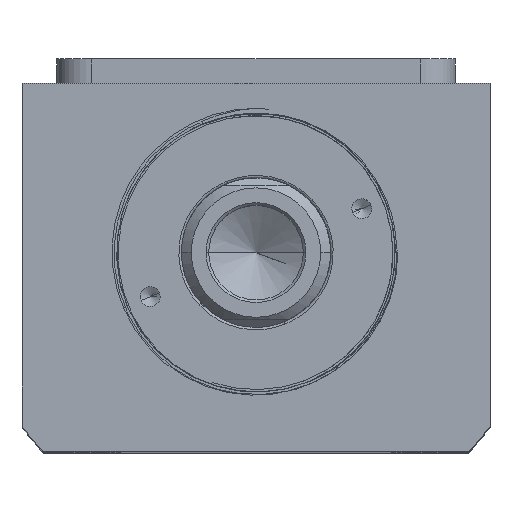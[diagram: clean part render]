
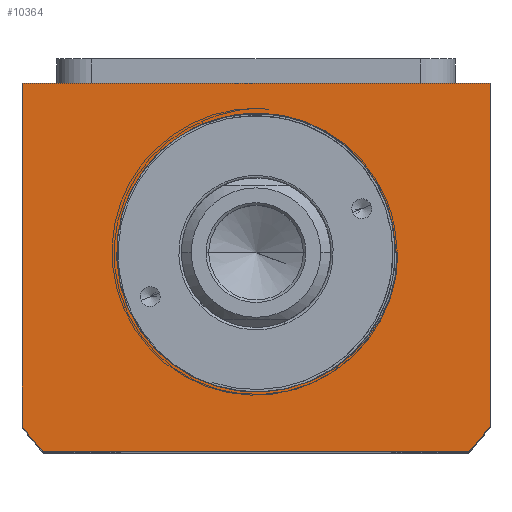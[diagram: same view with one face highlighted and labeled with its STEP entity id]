
A CAD part, top view. The second image highlights one B-rep face of the part: STEP entity #10364.
In plain terms, the highlighted planar face has unit normal (0, 0, 1).
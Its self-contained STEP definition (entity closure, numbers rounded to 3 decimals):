
#190 = VECTOR ( 'NONE', #6866, 1000. ) ;
#241 = CARTESIAN_POINT ( 'NONE',  ( 42.688, -40., 77.5 ) ) ;
#292 = CARTESIAN_POINT ( 'NONE',  ( 18.129, -21.529, 77.5 ) ) ;
#463 = CIRCLE ( 'NONE', #9148, 58.5 ) ;
#530 = ORIENTED_EDGE ( 'NONE', *, *, #8045, .T. ) ;
#660 = ORIENTED_EDGE ( 'NONE', *, *, #3275, .T. ) ;
#726 = EDGE_CURVE ( 'NONE', #4412, #2921, #1203, .T. ) ;
#954 = PLANE ( 'NONE',  #3940 ) ;
#991 = AXIS2_PLACEMENT_3D ( 'NONE', #1099, #8386, #10950 ) ;
#1099 = CARTESIAN_POINT ( 'NONE',  ( 0., 0., 77.5 ) ) ;
#1199 = CARTESIAN_POINT ( 'NONE',  ( 16.467, -22.819, 77.5 ) ) ;
#1203 = LINE ( 'NONE', #241, #9939 ) ;
#1236 = DIRECTION ( 'NONE',  ( 0., 1., 0. ) ) ;
#1483 = VERTEX_POINT ( 'NONE', #4573 ) ;
#1523 = EDGE_CURVE ( 'NONE', #5474, #9011, #7104, .T. ) ;
#1554 = DIRECTION ( 'NONE',  ( 0., 0., 1. ) ) ;
#1875 = DIRECTION ( 'NONE',  ( 0., 0., 1. ) ) ;
#2074 = CARTESIAN_POINT ( 'NONE',  ( 28.323, -2.832, 77.5 ) ) ;
#2110 = CARTESIAN_POINT ( 'NONE',  ( 12.831, -24.945, 77.5 ) ) ;
#2152 = CARTESIAN_POINT ( 'NONE',  ( 11.542, -25.544, 77.5 ) ) ;
#2390 = DIRECTION ( 'NONE',  ( -1., 0., 0. ) ) ;
#2921 = VERTEX_POINT ( 'NONE', #5955 ) ;
#2943 = CARTESIAN_POINT ( 'NONE',  ( 26.694, -9.657, 77.5 ) ) ;
#2978 = CARTESIAN_POINT ( 'NONE',  ( 24.178, -14.712, 77.5 ) ) ;
#3061 = CARTESIAN_POINT ( 'NONE',  ( 28.495, 0., 77.5 ) ) ;
#3275 = EDGE_CURVE ( 'NONE', #9011, #10306, #8920, .T. ) ;
#3410 = CARTESIAN_POINT ( 'NONE',  ( 0., 0., 77.5 ) ) ;
#3570 = DIRECTION ( 'NONE',  ( 1., 0., 0. ) ) ;
#3700 = CARTESIAN_POINT ( 'NONE',  ( 47., -34.832, 77.5 ) ) ;
#3851 = CARTESIAN_POINT ( 'NONE',  ( 24.898, -13.504, 77.5 ) ) ;
#3891 = CARTESIAN_POINT ( 'NONE',  ( 28.485, -0.71, 77.5 ) ) ;
#3940 = AXIS2_PLACEMENT_3D ( 'NONE', #7190, #1875, #3570 ) ;
#3956 = CIRCLE ( 'NONE', #6538, 58.5 ) ;
#4281 = EDGE_CURVE ( 'NONE', #1483, #4412, #463, .T. ) ;
#4412 = VERTEX_POINT ( 'NONE', #9945 ) ;
#4435 = DIRECTION ( 'NONE',  ( 0., 0., 1. ) ) ;
#4570 = VERTEX_POINT ( 'NONE', #8381 ) ;
#4573 = CARTESIAN_POINT ( 'NONE',  ( -47., -34.832, 77.5 ) ) ;
#4706 = VECTOR ( 'NONE', #1236, 1000. ) ;
#4729 = CARTESIAN_POINT ( 'NONE',  ( 10.89, -25.816, 77.5 ) ) ;
#4766 = CARTESIAN_POINT ( 'NONE',  ( 21.684, -18.094, 77.5 ) ) ;
#5111 = CARTESIAN_POINT ( 'NONE',  ( 47., 34., 77.5 ) ) ;
#5262 = ORIENTED_EDGE ( 'NONE', *, *, #10270, .F. ) ;
#5323 = DIRECTION ( 'NONE',  ( 1., 0., 0. ) ) ;
#5474 = VERTEX_POINT ( 'NONE', #3700 ) ;
#5666 = B_SPLINE_CURVE_WITH_KNOTS ( 'NONE', 3,
 ( #3061, #3891, #6539, #2074, #7425, #8344, #7504, #2943, #6575, #3851, #2978, #9300, #4766, #5703, #5667, #6611, #292, #1199, #10131, #7465, #2110, #2152, #4729, #8258 ),
 .UNSPECIFIED., .F., .F.,
 ( 4, 2, 2, 2, 2, 2, 2, 2, 2, 2, 2, 4 ),
 ( 0., 0.002, 0.004, 0.009, 0.013, 0.017, 0.021, 0.023, 0.026, 0.03, 0.032, 0.034 ),
 .UNSPECIFIED. ) ;
#5667 = CARTESIAN_POINT ( 'NONE',  ( 19.714, -20.129, 77.5 ) ) ;
#5703 = CARTESIAN_POINT ( 'NONE',  ( 20.224, -19.631, 77.5 ) ) ;
#5873 = LINE ( 'NONE', #7744, #8396 ) ;
#5955 = CARTESIAN_POINT ( 'NONE',  ( 42.688, -40., 77.5 ) ) ;
#6190 = VECTOR ( 'NONE', #8895, 1000. ) ;
#6216 = EDGE_CURVE ( 'NONE', #8558, #4570, #5666, .T. ) ;
#6309 = CIRCLE ( 'NONE', #991, 28. ) ;
#6538 = AXIS2_PLACEMENT_3D ( 'NONE', #3410, #1554, #11387 ) ;
#6539 = CARTESIAN_POINT ( 'NONE',  ( 28.449, -1.419, 77.5 ) ) ;
#6575 = CARTESIAN_POINT ( 'NONE',  ( 26.163, -10.961, 77.5 ) ) ;
#6611 = CARTESIAN_POINT ( 'NONE',  ( 18.667, -21.077, 77.5 ) ) ;
#6866 = DIRECTION ( 'NONE',  ( -1., 0., 0. ) ) ;
#7104 = LINE ( 'NONE', #8377, #4706 ) ;
#7112 = CARTESIAN_POINT ( 'NONE',  ( 28.495, 0., 77.5 ) ) ;
#7140 = FACE_OUTER_BOUND ( 'NONE', #10981, .T. ) ;
#7190 = CARTESIAN_POINT ( 'NONE',  ( 0., 0., 77.5 ) ) ;
#7409 = FACE_BOUND ( 'NONE', #7661, .T. ) ;
#7425 = CARTESIAN_POINT ( 'NONE',  ( 28.233, -3.538, 77.5 ) ) ;
#7465 = CARTESIAN_POINT ( 'NONE',  ( 13.459, -24.624, 77.5 ) ) ;
#7504 = CARTESIAN_POINT ( 'NONE',  ( 27.555, -6.99, 77.5 ) ) ;
#7646 = CARTESIAN_POINT ( 'NONE',  ( -47., 34., 77.5 ) ) ;
#7661 = EDGE_LOOP ( 'NONE', ( #5262, #10993, #10802 ) ) ;
#7744 = CARTESIAN_POINT ( 'NONE',  ( 0., 0., 77.5 ) ) ;
#7809 = CARTESIAN_POINT ( 'NONE',  ( 28., 0., 77.5 ) ) ;
#7883 = ORIENTED_EDGE ( 'NONE', *, *, #4281, .T. ) ;
#8045 = EDGE_CURVE ( 'NONE', #2921, #5474, #3956, .T. ) ;
#8258 = CARTESIAN_POINT ( 'NONE',  ( 10.232, -26.064, 77.5 ) ) ;
#8265 = EDGE_CURVE ( 'NONE', #10306, #1483, #8587, .T. ) ;
#8344 = CARTESIAN_POINT ( 'NONE',  ( 27.887, -5.628, 77.5 ) ) ;
#8377 = CARTESIAN_POINT ( 'NONE',  ( 47., 34., 77.5 ) ) ;
#8381 = CARTESIAN_POINT ( 'NONE',  ( 10.232, -26.064, 77.5 ) ) ;
#8386 = DIRECTION ( 'NONE',  ( 0., 0., -1. ) ) ;
#8396 = VECTOR ( 'NONE', #2390, 1000. ) ;
#8558 = VERTEX_POINT ( 'NONE', #7112 ) ;
#8587 = LINE ( 'NONE', #10662, #6190 ) ;
#8861 = CARTESIAN_POINT ( 'NONE',  ( -47., 34., 77.5 ) ) ;
#8895 = DIRECTION ( 'NONE',  ( 0., -1., 0. ) ) ;
#8920 = LINE ( 'NONE', #7646, #190 ) ;
#8986 = VERTEX_POINT ( 'NONE', #7809 ) ;
#9011 = VERTEX_POINT ( 'NONE', #5111 ) ;
#9148 = AXIS2_PLACEMENT_3D ( 'NONE', #10718, #4435, #5323 ) ;
#9300 = CARTESIAN_POINT ( 'NONE',  ( 22.571, -17.007, 77.5 ) ) ;
#9477 = EDGE_CURVE ( 'NONE', #4570, #8986, #6309, .T. ) ;
#9939 = VECTOR ( 'NONE', #11030, 1000. ) ;
#9945 = CARTESIAN_POINT ( 'NONE',  ( -42.688, -40., 77.5 ) ) ;
#10131 = CARTESIAN_POINT ( 'NONE',  ( 15.3, -23.593, 77.5 ) ) ;
#10154 = ORIENTED_EDGE ( 'NONE', *, *, #8265, .T. ) ;
#10179 = ORIENTED_EDGE ( 'NONE', *, *, #1523, .T. ) ;
#10270 = EDGE_CURVE ( 'NONE', #8558, #8986, #5873, .T. ) ;
#10306 = VERTEX_POINT ( 'NONE', #8861 ) ;
#10364 = ADVANCED_FACE ( 'NONE', ( #7409, #7140 ), #954, .T. ) ;
#10662 = CARTESIAN_POINT ( 'NONE',  ( -47., -34.832, 77.5 ) ) ;
#10665 = ORIENTED_EDGE ( 'NONE', *, *, #726, .T. ) ;
#10718 = CARTESIAN_POINT ( 'NONE',  ( 0., 0., 77.5 ) ) ;
#10802 = ORIENTED_EDGE ( 'NONE', *, *, #9477, .T. ) ;
#10950 = DIRECTION ( 'NONE',  ( 1., 0., 0. ) ) ;
#10981 = EDGE_LOOP ( 'NONE', ( #660, #10154, #7883, #10665, #530, #10179 ) ) ;
#10993 = ORIENTED_EDGE ( 'NONE', *, *, #6216, .T. ) ;
#11030 = DIRECTION ( 'NONE',  ( 1., 0., 0. ) ) ;
#11387 = DIRECTION ( 'NONE',  ( 1., 0., 0. ) ) ;
